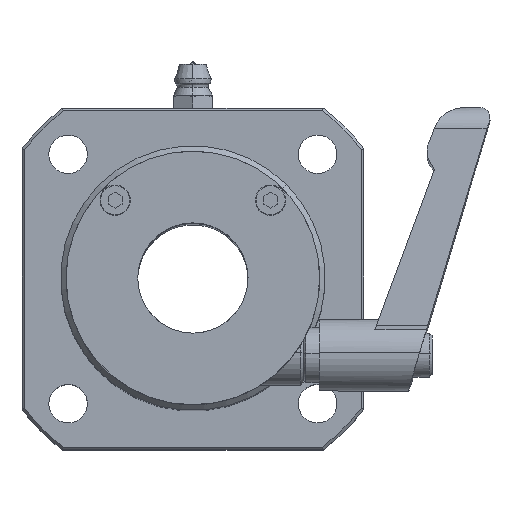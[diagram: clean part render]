
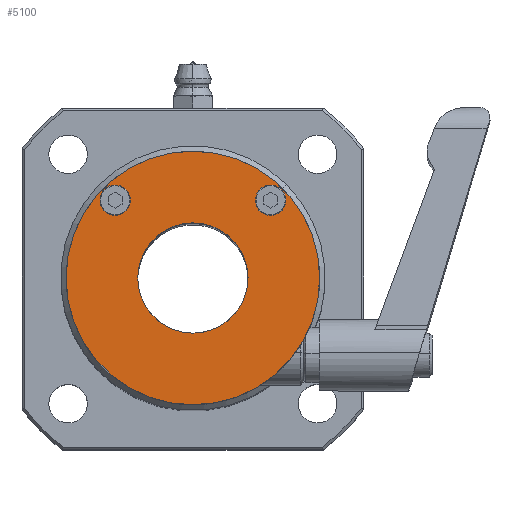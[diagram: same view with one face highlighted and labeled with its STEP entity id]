
A CAD part, top view. The second image highlights one B-rep face of the part: STEP entity #5100.
In plain terms, the highlighted planar face has unit normal (0, 0, 1).
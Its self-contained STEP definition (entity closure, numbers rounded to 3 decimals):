
#116 = DIRECTION ( 'NONE',  ( 0., -1., 0. ) ) ;
#404 = CARTESIAN_POINT ( 'NONE',  ( 1.414, 17.231, 52.89 ) ) ;
#472 = AXIS2_PLACEMENT_3D ( 'NONE', #5608, #4814, #5738 ) ;
#590 = CARTESIAN_POINT ( 'NONE',  ( 1.414, 7.231, 52.89 ) ) ;
#646 = FACE_BOUND ( 'NONE', #10693, .T. ) ;
#845 = VERTEX_POINT ( 'NONE', #967 ) ;
#967 = CARTESIAN_POINT ( 'NONE',  ( -9.936, 21.331, 52.89 ) ) ;
#1187 = EDGE_CURVE ( 'NONE', #2392, #8871, #7535, .T. ) ;
#1307 = CARTESIAN_POINT ( 'NONE',  ( 12.764, 21.331, 52.89 ) ) ;
#1617 = ORIENTED_EDGE ( 'NONE', *, *, #10907, .F. ) ;
#1805 = VERTEX_POINT ( 'NONE', #4185 ) ;
#1930 = DIRECTION ( 'NONE',  ( 0., 0., 1. ) ) ;
#2056 = CIRCLE ( 'NONE', #9011, 23. ) ;
#2162 = AXIS2_PLACEMENT_3D ( 'NONE', #9446, #10427, #4852 ) ;
#2392 = VERTEX_POINT ( 'NONE', #404 ) ;
#2551 = CIRCLE ( 'NONE', #2162, 2.75 ) ;
#3084 = AXIS2_PLACEMENT_3D ( 'NONE', #590, #3434, #8283 ) ;
#3357 = DIRECTION ( 'NONE',  ( 0., 0., 1. ) ) ;
#3434 = DIRECTION ( 'NONE',  ( 0., 0., 1. ) ) ;
#3867 = DIRECTION ( 'NONE',  ( 0., -1., 0. ) ) ;
#4185 = CARTESIAN_POINT ( 'NONE',  ( 1.414, 30.231, 52.89 ) ) ;
#4445 = PLANE ( 'NONE',  #5057 ) ;
#4814 = DIRECTION ( 'NONE',  ( 0., 0., 1. ) ) ;
#4832 = VERTEX_POINT ( 'NONE', #7812 ) ;
#4836 = CARTESIAN_POINT ( 'NONE',  ( 18.264, 21.331, 52.89 ) ) ;
#4852 = DIRECTION ( 'NONE',  ( 1., 0., 0. ) ) ;
#4866 = CARTESIAN_POINT ( 'NONE',  ( 1.414, -2.769, 52.89 ) ) ;
#5057 = AXIS2_PLACEMENT_3D ( 'NONE', #11514, #11576, #8665 ) ;
#5076 = EDGE_CURVE ( 'NONE', #7879, #1805, #9805, .T. ) ;
#5100 = ADVANCED_FACE ( 'NONE', ( #5367, #646, #11022, #8351 ), #4445, .T. ) ;
#5108 = EDGE_LOOP ( 'NONE', ( #10552, #7891 ) ) ;
#5367 = FACE_BOUND ( 'NONE', #9260, .T. ) ;
#5403 = VERTEX_POINT ( 'NONE', #1307 ) ;
#5589 = CIRCLE ( 'NONE', #5788, 2.75 ) ;
#5608 = CARTESIAN_POINT ( 'NONE',  ( -12.686, 21.331, 52.89 ) ) ;
#5738 = DIRECTION ( 'NONE',  ( 1., 0., 0. ) ) ;
#5788 = AXIS2_PLACEMENT_3D ( 'NONE', #11969, #11845, #11902 ) ;
#5926 = DIRECTION ( 'NONE',  ( 0., 0., 1. ) ) ;
#6116 = DIRECTION ( 'NONE',  ( 0., 0., 1. ) ) ;
#6178 = DIRECTION ( 'NONE',  ( 0., -1., 0. ) ) ;
#6622 = EDGE_CURVE ( 'NONE', #5403, #6901, #2551, .T. ) ;
#6885 = ORIENTED_EDGE ( 'NONE', *, *, #11043, .F. ) ;
#6901 = VERTEX_POINT ( 'NONE', #4836 ) ;
#7050 = CARTESIAN_POINT ( 'NONE',  ( 1.414, 7.231, 52.89 ) ) ;
#7334 = DIRECTION ( 'NONE',  ( 1., 0., 0. ) ) ;
#7535 = CIRCLE ( 'NONE', #9126, 10. ) ;
#7683 = CARTESIAN_POINT ( 'NONE',  ( 1.414, 7.231, 52.89 ) ) ;
#7812 = CARTESIAN_POINT ( 'NONE',  ( -15.436, 21.331, 52.89 ) ) ;
#7879 = VERTEX_POINT ( 'NONE', #10362 ) ;
#7891 = ORIENTED_EDGE ( 'NONE', *, *, #5076, .T. ) ;
#8014 = CIRCLE ( 'NONE', #11388, 10. ) ;
#8189 = CIRCLE ( 'NONE', #472, 2.75 ) ;
#8283 = DIRECTION ( 'NONE',  ( 0., -1., 0. ) ) ;
#8351 = FACE_BOUND ( 'NONE', #12275, .T. ) ;
#8601 = CARTESIAN_POINT ( 'NONE',  ( 1.414, 7.231, 52.89 ) ) ;
#8665 = DIRECTION ( 'NONE',  ( 0., -1., 0. ) ) ;
#8728 = ORIENTED_EDGE ( 'NONE', *, *, #6622, .F. ) ;
#8871 = VERTEX_POINT ( 'NONE', #4866 ) ;
#9011 = AXIS2_PLACEMENT_3D ( 'NONE', #7683, #5926, #116 ) ;
#9126 = AXIS2_PLACEMENT_3D ( 'NONE', #8601, #1930, #3867 ) ;
#9260 = EDGE_LOOP ( 'NONE', ( #8728, #6885 ) ) ;
#9446 = CARTESIAN_POINT ( 'NONE',  ( 15.514, 21.331, 52.89 ) ) ;
#9805 = CIRCLE ( 'NONE', #3084, 23. ) ;
#9812 = EDGE_CURVE ( 'NONE', #8871, #2392, #8014, .T. ) ;
#9961 = EDGE_CURVE ( 'NONE', #1805, #7879, #2056, .T. ) ;
#10250 = ORIENTED_EDGE ( 'NONE', *, *, #11725, .F. ) ;
#10362 = CARTESIAN_POINT ( 'NONE',  ( 1.414, -15.769, 52.89 ) ) ;
#10427 = DIRECTION ( 'NONE',  ( 0., 0., 1. ) ) ;
#10552 = ORIENTED_EDGE ( 'NONE', *, *, #9961, .T. ) ;
#10693 = EDGE_LOOP ( 'NONE', ( #1617, #10250 ) ) ;
#10907 = EDGE_CURVE ( 'NONE', #4832, #845, #8189, .T. ) ;
#11022 = FACE_OUTER_BOUND ( 'NONE', #5108, .T. ) ;
#11043 = EDGE_CURVE ( 'NONE', #6901, #5403, #11904, .T. ) ;
#11126 = AXIS2_PLACEMENT_3D ( 'NONE', #11192, #3357, #7334 ) ;
#11192 = CARTESIAN_POINT ( 'NONE',  ( 15.514, 21.331, 52.89 ) ) ;
#11285 = ORIENTED_EDGE ( 'NONE', *, *, #1187, .F. ) ;
#11388 = AXIS2_PLACEMENT_3D ( 'NONE', #7050, #6116, #6178 ) ;
#11460 = ORIENTED_EDGE ( 'NONE', *, *, #9812, .F. ) ;
#11514 = CARTESIAN_POINT ( 'NONE',  ( 1.414, 7.231, 52.89 ) ) ;
#11576 = DIRECTION ( 'NONE',  ( 0., 0., 1. ) ) ;
#11725 = EDGE_CURVE ( 'NONE', #845, #4832, #5589, .T. ) ;
#11845 = DIRECTION ( 'NONE',  ( 0., 0., 1. ) ) ;
#11902 = DIRECTION ( 'NONE',  ( 1., 0., 0. ) ) ;
#11904 = CIRCLE ( 'NONE', #11126, 2.75 ) ;
#11969 = CARTESIAN_POINT ( 'NONE',  ( -12.686, 21.331, 52.89 ) ) ;
#12275 = EDGE_LOOP ( 'NONE', ( #11285, #11460 ) ) ;
